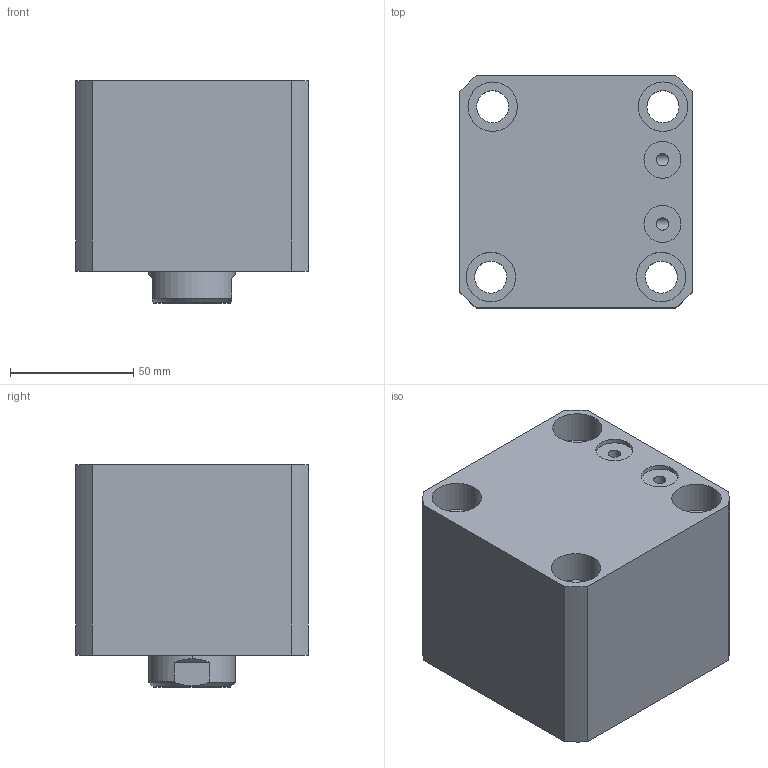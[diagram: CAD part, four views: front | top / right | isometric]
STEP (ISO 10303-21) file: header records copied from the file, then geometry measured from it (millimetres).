
FILE_DESCRIPTION (( 'STEP AP214' ), '1' );
FILE_NAME ('chtb-sdmb63x10n_asm.STEP', '2018-05-16T06:47:32', ( 'Windows' ), ( 'Microsoft' ), 'SwSTEP 2.0', 'SolidWorks 2015', '' );
FILE_SCHEMA (( 'AUTOMOTIVE_DESIGN' ));
Length unit declared in the file: millimetre
Products named in the file (4): CHTB-SDMB63X10NBT; CHTB63X10NHSG; CHTB-63QG; chtb-sdmb63x10n_asm
Assembly tree (3 placements, depth 2):
  chtb-sdmb63x10n_asm
    CHTB-63QG
    CHTB63X10NHSG
    CHTB-SDMB63X10NBT
Bounding box: 94 x 94 x 90 mm (x, y, z)
Volume: 593877.7 mm3; surface area: 111205.8 mm2
Topology: 3 solids, 3 shells, 164 faces, 468 edges, 318 vertices
Faces by surface type: cylinder 107, plane 30, bspline 12, cone 8, torus 7
Entity records: 17708 total; most frequent: CARTESIAN_POINT 13594, ORIENTED_EDGE 924, DIRECTION 707, EDGE_CURVE 462, VERTEX_POINT 318, AXIS2_PLACEMENT_3D 284, EDGE_LOOP 196, FACE_OUTER_BOUND 164
